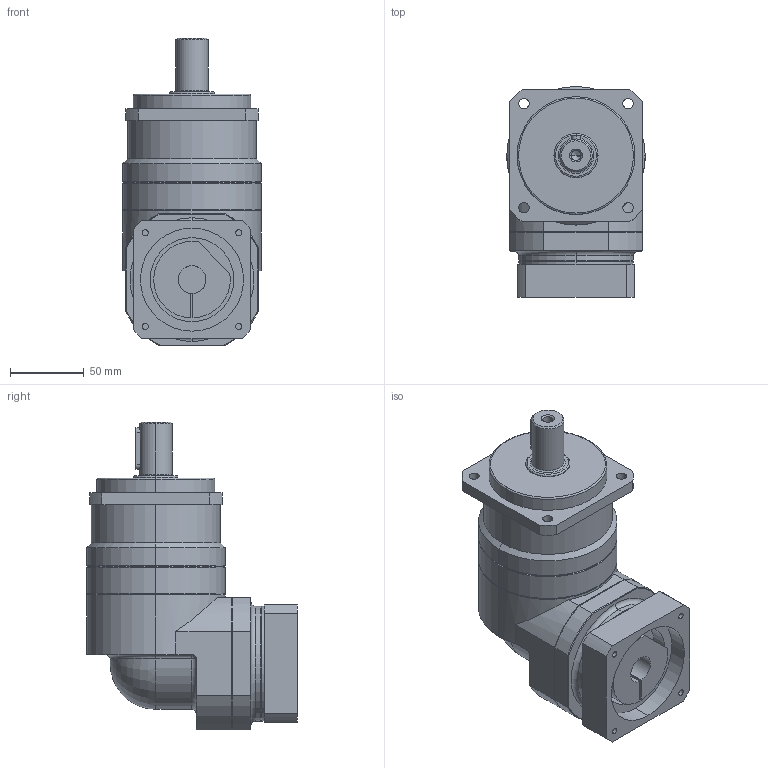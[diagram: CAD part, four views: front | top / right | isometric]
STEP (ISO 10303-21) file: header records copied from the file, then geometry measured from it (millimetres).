
FILE_DESCRIPTION (( 'STEP AP214' ), '1' );
FILE_NAME ('EVB090-L1-S2-P1 19-70-90-M5.STEP', '2025-01-10T01:27:45', ( '微软用户' ), ( '微软中国' ), 'SwSTEP 2.0', 'SolidWorks 2021', '' );
FILE_SCHEMA (( 'AUTOMOTIVE_DESIGN' ));
Length unit declared in the file: millimetre
Products named in the file (1): EVB090-L1-S2-P1 19-70-90-M5
Bounding box: 94 x 143.05 x 209 mm (x, y, z)
Volume: 1280095.1 mm3; surface area: 96456.7 mm2
Topology: 1 solids, 1 shells, 184 faces, 414 edges, 244 vertices
Faces by surface type: cylinder 71, plane 59, cone 39, torus 11, bspline 2, sphere 2
Entity records: 5573 total; most frequent: CARTESIAN_POINT 1366, DIRECTION 927, ORIENTED_EDGE 820, EDGE_CURVE 410, AXIS2_PLACEMENT_3D 373, VERTEX_POINT 244, EDGE_LOOP 208, CIRCLE 190
